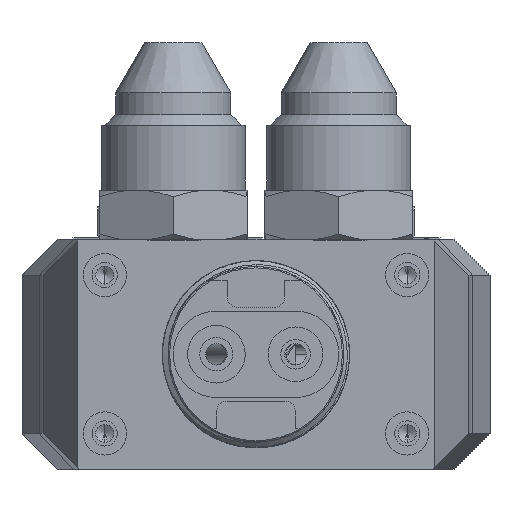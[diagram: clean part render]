
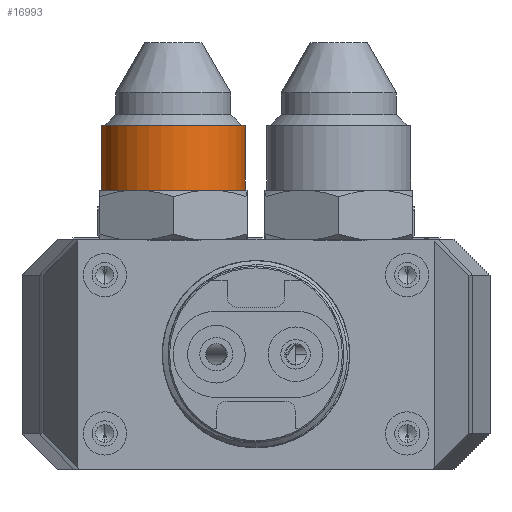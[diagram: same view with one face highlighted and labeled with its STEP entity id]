
A CAD part, front view. The second image highlights one B-rep face of the part: STEP entity #16993.
In plain terms, the highlighted cylindrical face has radius 10 mm (diameter 20 mm), a partial arc.
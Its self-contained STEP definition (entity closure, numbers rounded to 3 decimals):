
#667 = VERTEX_POINT ( 'NONE', #4493 ) ;
#2984 = VECTOR ( 'NONE', #9997, 1000. ) ;
#4393 = CARTESIAN_POINT ( 'NONE',  ( -39.905, -128.319, 1052.575 ) ) ;
#4493 = CARTESIAN_POINT ( 'NONE',  ( -49.905, -128.319, 1021.303 ) ) ;
#4628 = EDGE_CURVE ( 'NONE', #34721, #31136, #9876, .T. ) ;
#5018 = EDGE_LOOP ( 'NONE', ( #25512, #45440, #20741, #47677 ) ) ;
#9876 = CIRCLE ( 'NONE', #18827, 10. ) ;
#9997 = DIRECTION ( 'NONE',  ( 0., 0., 1. ) ) ;
#10124 = DIRECTION ( 'NONE',  ( 0., 0., 1. ) ) ;
#12510 = DIRECTION ( 'NONE',  ( 1., 0., 0. ) ) ;
#13909 = DIRECTION ( 'NONE',  ( 1., 0., 0. ) ) ;
#15880 = CARTESIAN_POINT ( 'NONE',  ( -29.905, -128.319, 1021.303 ) ) ;
#16713 = CARTESIAN_POINT ( 'NONE',  ( -39.905, -128.319, 1030.303 ) ) ;
#16993 = ADVANCED_FACE ( 'NONE', ( #52158 ), #29879, .T. ) ;
#17713 = DIRECTION ( 'NONE',  ( 1., 0., 0. ) ) ;
#18827 = AXIS2_PLACEMENT_3D ( 'NONE', #16713, #50757, #12510 ) ;
#20639 = CARTESIAN_POINT ( 'NONE',  ( -49.905, -128.319, 1030.303 ) ) ;
#20741 = ORIENTED_EDGE ( 'NONE', *, *, #40835, .T. ) ;
#21710 = CIRCLE ( 'NONE', #39543, 10. ) ;
#24012 = DIRECTION ( 'NONE',  ( 0., 0., 1. ) ) ;
#25512 = ORIENTED_EDGE ( 'NONE', *, *, #42459, .F. ) ;
#26102 = CARTESIAN_POINT ( 'NONE',  ( -29.905, -128.319, 1030.303 ) ) ;
#29879 = CYLINDRICAL_SURFACE ( 'NONE', #48916, 10. ) ;
#31136 = VERTEX_POINT ( 'NONE', #20639 ) ;
#34306 = VECTOR ( 'NONE', #24012, 1000. ) ;
#34721 = VERTEX_POINT ( 'NONE', #26102 ) ;
#35454 = CARTESIAN_POINT ( 'NONE',  ( -29.905, -128.319, 1052.575 ) ) ;
#39543 = AXIS2_PLACEMENT_3D ( 'NONE', #43678, #10124, #17713 ) ;
#39862 = EDGE_CURVE ( 'NONE', #667, #42590, #21710, .T. ) ;
#39957 = CARTESIAN_POINT ( 'NONE',  ( -49.905, -128.319, 1052.575 ) ) ;
#40835 = EDGE_CURVE ( 'NONE', #42590, #34721, #45187, .T. ) ;
#42459 = EDGE_CURVE ( 'NONE', #667, #31136, #44682, .T. ) ;
#42590 = VERTEX_POINT ( 'NONE', #15880 ) ;
#43241 = DIRECTION ( 'NONE',  ( 0., 0., 1. ) ) ;
#43678 = CARTESIAN_POINT ( 'NONE',  ( -39.905, -128.319, 1021.303 ) ) ;
#44682 = LINE ( 'NONE', #39957, #34306 ) ;
#45187 = LINE ( 'NONE', #35454, #2984 ) ;
#45440 = ORIENTED_EDGE ( 'NONE', *, *, #39862, .T. ) ;
#47677 = ORIENTED_EDGE ( 'NONE', *, *, #4628, .T. ) ;
#48916 = AXIS2_PLACEMENT_3D ( 'NONE', #4393, #43241, #13909 ) ;
#50757 = DIRECTION ( 'NONE',  ( 0., 0., -1. ) ) ;
#52158 = FACE_OUTER_BOUND ( 'NONE', #5018, .T. ) ;
